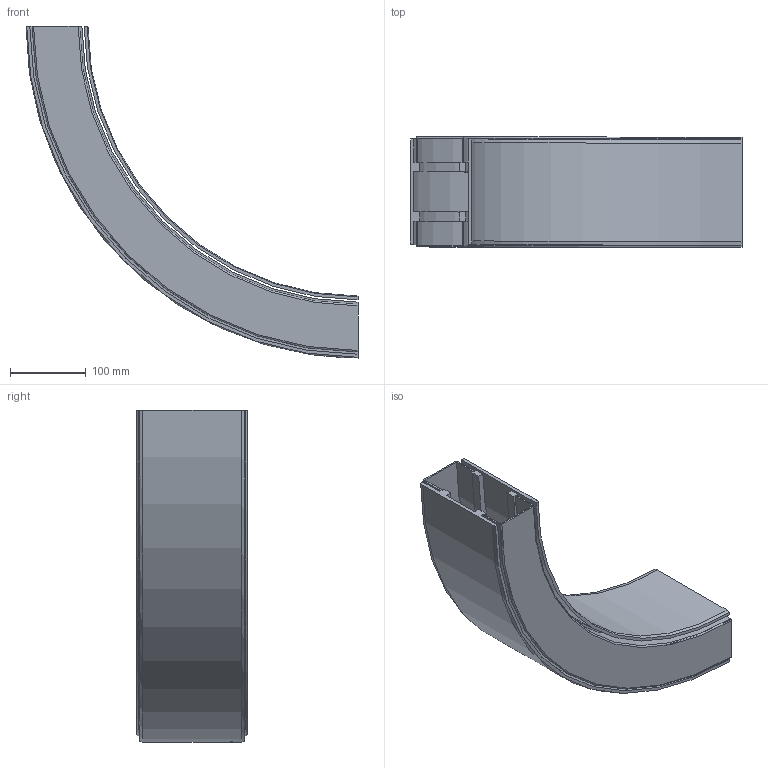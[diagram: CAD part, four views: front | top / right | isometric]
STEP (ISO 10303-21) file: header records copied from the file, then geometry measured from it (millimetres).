
FILE_DESCRIPTION(/* description */ ('VERTIKALKURVA S540 R400'),/* implementation_level */ '2;1');
FILE_NAME(/* name */ '540-5645+140-2000-NER-01.stp',/* time_stamp */ '2022-09-21T10:56:16+02:00',/* author */ ('Mathias.Dore'),/* organization */ ('CARRYLINE'),/* preprocessor_version */ 'ST-DEVELOPER v19.2',/* originating_system */ 'Autodesk Inventor 2023',/* authorisation */ '');
FILE_SCHEMA (('AUTOMOTIVE_DESIGN { 1 0 10303 214 3 1 1 }'));
Length unit declared in the file: millimetre
Products named in the file (1): 540-5645+140-2000-NER-01
Bounding box: 439.5 x 146 x 439.5 mm (x, y, z)
Volume: 1438440.2 mm3; surface area: 746320.4 mm2
Topology: 2 solids, 2 shells, 87 faces, 234 edges, 156 vertices
Faces by surface type: plane 40, cylinder 25, bspline 14, cone 4, torus 4
Entity records: 7378 total; most frequent: CARTESIAN_POINT 5179, ORIENTED_EDGE 468, DIRECTION 408, EDGE_CURVE 234, VERTEX_POINT 156, AXIS2_PLACEMENT_3D 141, LINE 126, VECTOR 126
